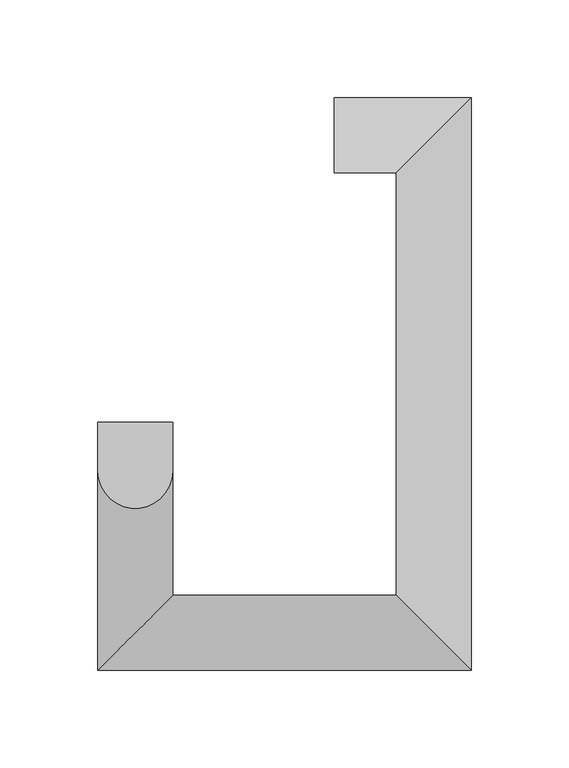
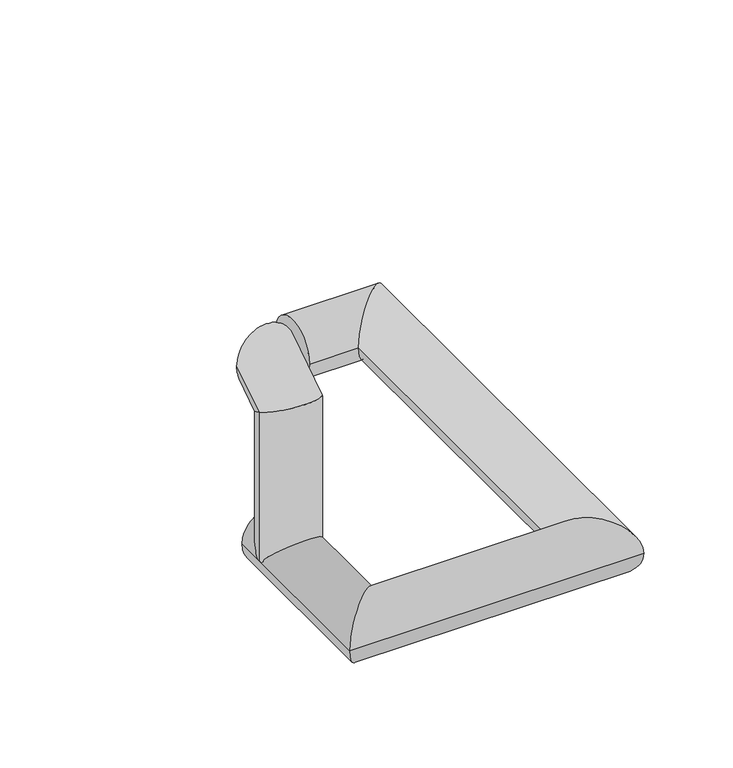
"""IFC4 building model written with IfcOpenShell, lengths in millimetres: proxy geometry, Livers Bronze-090310-Ver1-Button Rail End : Livers Bronze-090429-Ver1-Button Rail End Bottom."""

from ifc_helpers import new_model, si_unit, frame, origin, place, context, project, spatial, circle_curve, ellipse_curve, source, transform, mapped, element, save
from ifc_brep_helpers import plane_surface, cylinder_surface, advanced_brep


def generic_models_50799680(model_context):
    return source(origin(), model_context, "Body", "AdvancedBrep", [
        advanced_brep(
        [(-19.05, -19.05, 0.0), (19.05, -19.05, 0.0), (-19.05, -19.05, 101.5316335), (19.05, -19.05, 101.5316335), (-19.05, 5.8603003, 117.7085717), (-5.5325816, 5.8603003, 95.9730924), (5.5325816, 5.8603003, 95.9730924), (19.05, 5.8603003, 117.7085717), (0.0, 5.8603003, 140.4230924)],
        [
            (0, 1, circle_curve(frame((0.0, -19.05, 0.0), z_axis=(0.0, 0.0, -1.0), x_axis=(1.0, 0.0, 0.0)), 19.05)),
            (1, 0, circle_curve(frame((0.0, -19.05, 0.0), z_axis=(0.0, 0.0, -1.0), x_axis=(1.0, 0.0, 0.0)), 19.05)),
            (0, 2),
            (2, 3, ellipse_curve(frame((0.0, -19.05, 101.5316335), z_axis=(0.0, -0.47715876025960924, -0.878817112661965), x_axis=(0.0, 0.8788171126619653, -0.4771587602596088)), 21.6768651, 19.05)),
            (3, 1),
            (3, 2, ellipse_curve(frame((0.0, -19.05, 101.5316335), z_axis=(0.0, -0.47715876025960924, -0.878817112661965), x_axis=(0.0, 0.8788171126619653, -0.4771587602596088)), 21.6768651, 19.05)),
            (2, 4),
            (4, 5, ellipse_curve(frame((0.0, 5.8603003, 117.7085717), z_axis=(0.0, -1.0, 0.0), x_axis=(0.0, 0.0, -1.0)), 22.7145207, 19.05)),
            (5, 6, ellipse_curve(frame((0.0, 5.8603003, 117.7085717), z_axis=(0.0, -1.0, 0.0), x_axis=(0.0, 0.0, -1.0)), 22.7145207, 19.05)),
            (6, 7, ellipse_curve(frame((0.0, 5.8603003, 117.7085717), z_axis=(0.0, -1.0, 0.0), x_axis=(0.0, 0.0, -1.0)), 22.7145207, 19.05)),
            (7, 3),
            (7, 8, ellipse_curve(frame((0.0, 5.8603003, 117.7085717), z_axis=(0.0, -1.0, 0.0), x_axis=(0.0, 0.0, -1.0)), 22.7145207, 19.05)),
            (8, 4, ellipse_curve(frame((0.0, 5.8603003, 117.7085717), z_axis=(0.0, -1.0, 0.0), x_axis=(0.0, 0.0, -1.0)), 22.7145207, 19.05)),
            (5, 6),
        ],
        [
            plane_surface(frame((0.0, -19.05, 0.0), z_axis=(0.0, 0.0, -1.0), x_axis=(1.0, 0.0, 0.0))),
            cylinder_surface(frame((0.0, -19.05, 0.0), z_axis=(0.0, 0.0, -1.0), x_axis=(1.0, 0.0, 0.0)), 19.05),
            cylinder_surface(frame((0.0, -19.05, 101.5316335), z_axis=(0.0, -0.8386705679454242, -0.5446390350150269), x_axis=(1.0, 0.0, 0.0)), 19.05),
            plane_surface(frame((20.6730635, 5.8603003, 95.9730924), z_axis=(0.0, 1.0, 0.0), x_axis=(-1.0, 0.0, 0.0))),
            plane_surface(frame((20.6730635, 5.8603003, 140.4230924), z_axis=(0.0, 1.0, 0.0), x_axis=(-1.0, 0.0, 0.0))),
        ],
        [
            (0, [[1, 2]]),
            (1, [[-1, 3, 4, 5]]),
            (1, [[-2, -5, 6, -3]]),
            (2, [[-4, 7, 8, 9, 10, 11]]),
            (2, [[-6, -11, 12, 13, -7]]),
            (3, [[14, -9]]),
            (4, [[-14, -8, -13, -12, -10]]),
        ],
    ),
        advanced_brep(
        [(-19.05, 0.0, 0.0), (19.05, 0.0, 0.0), (-19.05, -120.65, 0.0), (19.05, -82.55, 0.0), (171.45, -120.65, 0.0), (133.35, -82.55, 0.0), (171.45, 171.45, 0.0), (133.35, 133.35, 0.0), (101.6, 171.45, 0.0), (101.6, 133.35, 0.0)],
        [
            (0, 1, circle_curve(frame((0.0, 0.0, 0.0), z_axis=(0.0, 1.0, 0.0), x_axis=(1.0, 0.0, 0.0)), 19.05)),
            (1, 0, circle_curve(frame((0.0, 0.0, 0.0), z_axis=(0.0, 1.0, 0.0), x_axis=(1.0, 0.0, 0.0)), 19.05)),
            (0, 2),
            (2, 3, ellipse_curve(frame((0.0, -101.6, 0.0), z_axis=(-0.7071067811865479, 0.707106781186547, 0.0), x_axis=(0.707106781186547, 0.707106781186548, 0.0)), 26.9407684, 19.05)),
            (3, 1),
            (3, 2, ellipse_curve(frame((0.0, -101.6, 0.0), z_axis=(-0.7071067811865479, 0.707106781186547, 0.0), x_axis=(0.707106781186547, 0.707106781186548, 0.0)), 26.9407684, 19.05)),
            (2, 4),
            (4, 5, ellipse_curve(frame((152.4, -101.6, 0.0), z_axis=(-0.7071067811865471, -0.7071067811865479, 0.0), x_axis=(-0.7071067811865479, 0.7071067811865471, 0.0)), 26.9407684, 19.05)),
            (5, 3),
            (5, 4, ellipse_curve(frame((152.4, -101.6, 0.0), z_axis=(-0.7071067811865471, -0.7071067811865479, 0.0), x_axis=(-0.7071067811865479, 0.7071067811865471, 0.0)), 26.9407684, 19.05)),
            (4, 6),
            (6, 7, ellipse_curve(frame((152.4, 152.4, 0.0), z_axis=(0.7071067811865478, -0.7071067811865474, 0.0), x_axis=(-0.7071067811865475, -0.7071067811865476, 0.0)), 26.9407684, 19.05)),
            (7, 5),
            (7, 6, ellipse_curve(frame((152.4, 152.4, 0.0), z_axis=(0.7071067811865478, -0.7071067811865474, 0.0), x_axis=(-0.7071067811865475, -0.7071067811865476, 0.0)), 26.9407684, 19.05)),
            (8, 9, circle_curve(frame((101.6, 152.4, 0.0), z_axis=(-1.0, 0.0, 0.0), x_axis=(0.0, -1.0, 0.0)), 19.05)),
            (9, 8, circle_curve(frame((101.6, 152.4, 0.0), z_axis=(-1.0, 0.0, 0.0), x_axis=(0.0, -1.0, 0.0)), 19.05)),
            (6, 8),
            (9, 7),
        ],
        [
            plane_surface(frame((0.0, 0.0, 0.0), z_axis=(0.0, 1.0, 0.0), x_axis=(0.0, 0.0, 1.0))),
            cylinder_surface(frame((0.0, 0.0, 0.0), z_axis=(0.0, 1.0, 0.0), x_axis=(1.0, 0.0, 0.0)), 19.05),
            cylinder_surface(frame((0.0, -101.6, 0.0), z_axis=(-1.0, 0.0, 0.0), x_axis=(0.0, 1.0, 0.0)), 19.05),
            cylinder_surface(frame((152.4, -101.6, 0.0), z_axis=(0.0, -1.0, 0.0), x_axis=(-1.0, 0.0, 0.0)), 19.05),
            plane_surface(frame((101.6, 152.4, 0.0), z_axis=(-1.0, 0.0, 0.0), x_axis=(0.0, 0.0, 1.0))),
            cylinder_surface(frame((152.4, 152.4, 0.0), z_axis=(1.0, 0.0, 0.0), x_axis=(0.0, -1.0, 0.0)), 19.05),
        ],
        [
            (0, [[1, 2]]),
            (1, [[-1, 3, 4, 5]]),
            (1, [[-2, -5, 6, -3]]),
            (2, [[-4, 7, 8, 9]]),
            (2, [[-6, -9, 10, -7]]),
            (3, [[-8, 11, 12, 13]]),
            (3, [[-10, -13, 14, -11]]),
            (4, [[15, 16]]),
            (5, [[-12, 17, -16, 18]]),
            (5, [[-14, -18, -15, -17]]),
        ],
    ),
    ])


if __name__ == "__main__":
    model = new_model("IFC4")
    model_context = context("Model", 3, world=origin())
    ifc_project = project(units=[si_unit("LENGTHUNIT", "METRE", prefix="MILLI")], contexts=[model_context])
    site = spatial("IfcSite", under=ifc_project)
    building = spatial("IfcBuilding", under=site)
    placement = place(None, origin())
    generic_models_shape = generic_models_50799680(model_context)
    element("IfcBuildingElementProxy", 1, Name="Livers Bronze-090310-Ver1-Button Rail End : Livers Bronze-090429-Ver1-Button Rail End Bottom", ObjectType="Livers Bronze-090310-Ver1-Button Rail End : Livers Bronze-090429-Ver1-Button Rail End Bottom", at=placement, inside=building, context=model_context, shape_type="MappedRepresentation", body=[
        mapped(generic_models_shape, transform((0.0, 0.0, 0.0), x_axis=(1.0, 0.0, 0.0), y_axis=(0.0, 1.0, 0.0), z_axis=(0.0, 0.0, 1.0))),
    ])
    save(model, "model.ifc")
